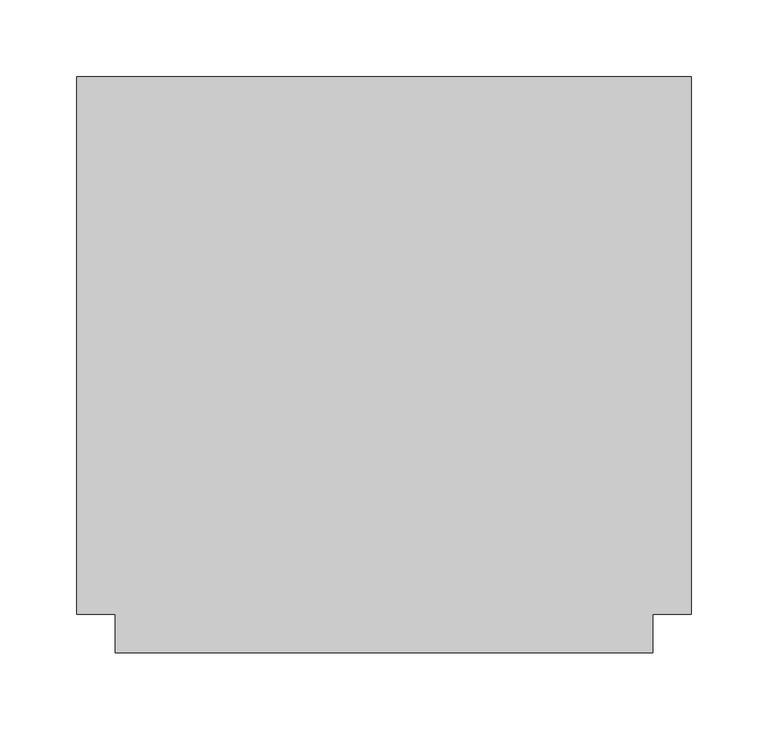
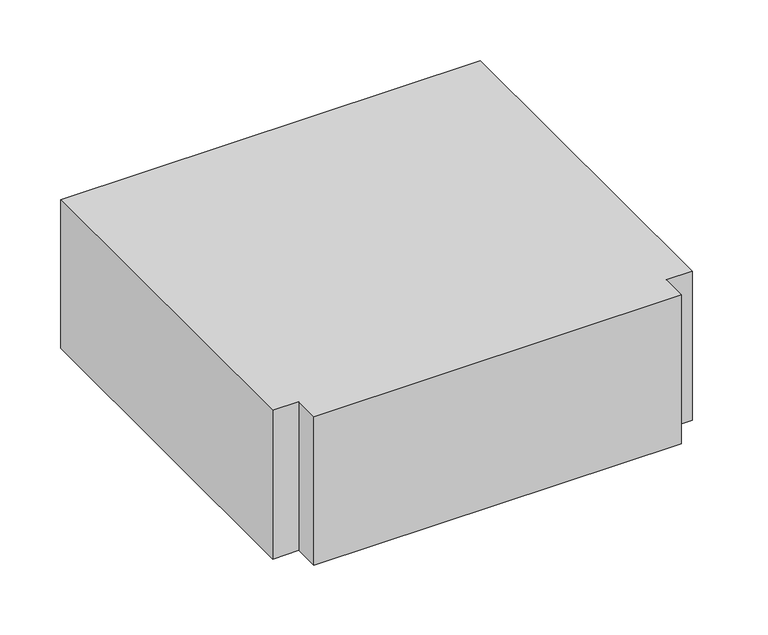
"""IFC4 building model written with IfcOpenShell, lengths in millimetres: duct fitting geometry, M_Te rectangular : Estándar."""

from ifc_helpers import new_model, si_unit, frame, origin, place, context, project, spatial, polyline, outline, extrude, source, transform, mapped, element, save


def duct_fitting_e9b3239b(model_context):
    return source(origin(), model_context, "Body", "SweptSolid", [
        extrude(outline(polyline([(-200.0, -175.0), (-200.0, 175.0), (200.0, 175.0), (200.0, -175.0), (175.0, -175.0), (175.0, -200.0), (-175.0, -200.0), (-175.0, -175.0), (-200.0, -175.0)])), frame((0.0, 0.0, -75.0), z_axis=(0.0, 0.0, 1.0), x_axis=(1.0, 0.0, 0.0)), (0.0, 0.0, 1.0), 150.0),
    ])


if __name__ == "__main__":
    model = new_model("IFC4")
    model_context = context("Model", 3, world=origin())
    ifc_project = project(units=[si_unit("LENGTHUNIT", "METRE", prefix="MILLI")], contexts=[model_context])
    site = spatial("IfcSite", under=ifc_project)
    building = spatial("IfcBuilding", under=site)
    placement = place(None, origin())
    duct_fitting_shape = duct_fitting_e9b3239b(model_context)
    element("IfcDuctFitting", 1, ObjectType="M_Te rectangular : Estándar", at=placement, inside=building, context=model_context, shape_type="MappedRepresentation", body=[
        mapped(duct_fitting_shape, transform((0.0, 0.0, 0.0), x_axis=(1.0, 0.0, 0.0), y_axis=(0.0, 1.0, 0.0), z_axis=(0.0, 0.0, 1.0))),
    ])
    save(model, "model.ifc")
